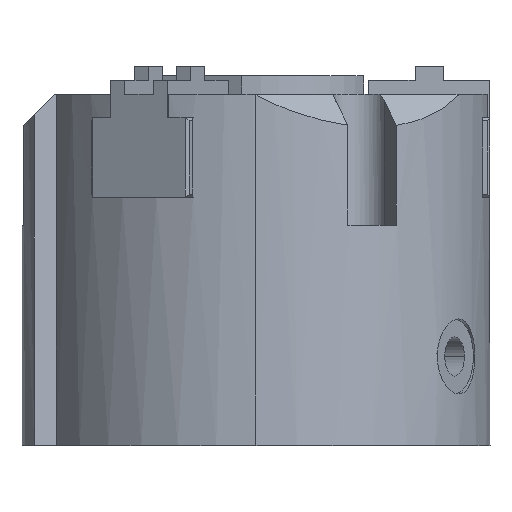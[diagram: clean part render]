
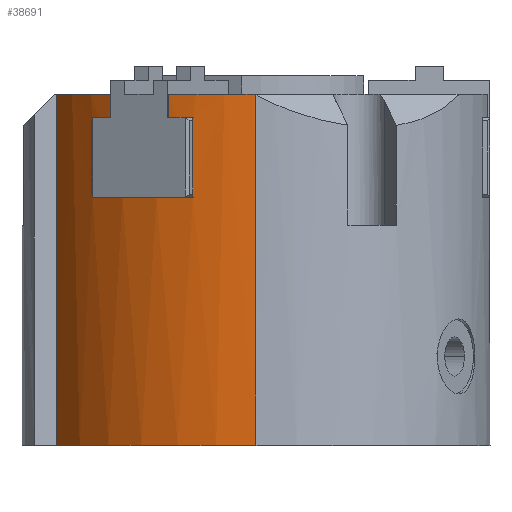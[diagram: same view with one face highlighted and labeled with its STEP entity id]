
A CAD part, top view. The second image highlights one B-rep face of the part: STEP entity #38691.
In plain terms, the highlighted cylindrical face has radius 25 mm (diameter 50 mm), a partial arc.
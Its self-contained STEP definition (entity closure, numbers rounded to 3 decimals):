
#1980 = DIRECTION ( 'NONE',  ( 0., -1., 0. ) ) ;
#2095 = CIRCLE ( 'NONE', #6055, 25. ) ;
#5515 = CIRCLE ( 'NONE', #51671, 25. ) ;
#6055 = AXIS2_PLACEMENT_3D ( 'NONE', #17786, #56748, #23388 ) ;
#6248 = CARTESIAN_POINT ( 'NONE',  ( 0., 35., 0. ) ) ;
#6533 = CARTESIAN_POINT ( 'NONE',  ( 0., 37.349, 25. ) ) ;
#6762 = CARTESIAN_POINT ( 'NONE',  ( -15.408, 37.5, 19.687 ) ) ;
#6874 = CARTESIAN_POINT ( 'NONE',  ( -17.479, 26.5, 17.874 ) ) ;
#7660 = CARTESIAN_POINT ( 'NONE',  ( -0.099, 37.399, 25. ) ) ;
#7695 = AXIS2_PLACEMENT_3D ( 'NONE', #49201, #15818, #54781 ) ;
#8846 = CYLINDRICAL_SURFACE ( 'NONE', #70943, 25. ) ;
#10016 = ORIENTED_EDGE ( 'NONE', *, *, #27983, .T. ) ;
#10881 = VERTEX_POINT ( 'NONE', #67672 ) ;
#11842 = ORIENTED_EDGE ( 'NONE', *, *, #12044, .T. ) ;
#11872 = DIRECTION ( 'NONE',  ( 0., 0., -1. ) ) ;
#12044 = EDGE_CURVE ( 'NONE', #50950, #47123, #2095, .T. ) ;
#12362 = CIRCLE ( 'NONE', #24687, 25. ) ;
#12746 = VECTOR ( 'NONE', #1980, 1000. ) ;
#13096 = ORIENTED_EDGE ( 'NONE', *, *, #34216, .T. ) ;
#13287 = CARTESIAN_POINT ( 'NONE',  ( -0.199, 37.449, 24.999 ) ) ;
#13321 = CARTESIAN_POINT ( 'NONE',  ( -21.358, 37.5, 12.994 ) ) ;
#14295 = VERTEX_POINT ( 'NONE', #17221 ) ;
#14493 = EDGE_CURVE ( 'NONE', #14295, #27524, #63065, .T. ) ;
#15222 = DIRECTION ( 'NONE',  ( 0., -1., 0. ) ) ;
#15429 = CARTESIAN_POINT ( 'NONE',  ( 0., 37.5, 0. ) ) ;
#15818 = DIRECTION ( 'NONE',  ( 0., -1., 0. ) ) ;
#16280 = ORIENTED_EDGE ( 'NONE', *, *, #14493, .F. ) ;
#16405 = DIRECTION ( 'NONE',  ( 0., -1., 0. ) ) ;
#16887 = EDGE_CURVE ( 'NONE', #45806, #26149, #49960, .T. ) ;
#17221 = CARTESIAN_POINT ( 'NONE',  ( -9.346, 37.5, 23.187 ) ) ;
#17537 = CARTESIAN_POINT ( 'NONE',  ( -9.346, 37.5, 23.187 ) ) ;
#17589 = ORIENTED_EDGE ( 'NONE', *, *, #61526, .T. ) ;
#17786 = CARTESIAN_POINT ( 'NONE',  ( 0., 26.5, 0. ) ) ;
#18872 = EDGE_CURVE ( 'NONE', #14295, #10881, #30232, .T. ) ;
#18934 = DIRECTION ( 'NONE',  ( 0., -1., 0. ) ) ;
#19650 = CARTESIAN_POINT ( 'NONE',  ( 0., 35., 0. ) ) ;
#19940 = CARTESIAN_POINT ( 'NONE',  ( -15.408, 35., 19.687 ) ) ;
#20588 = LINE ( 'NONE', #52783, #48480 ) ;
#21029 = DIRECTION ( 'NONE',  ( 0., 0., -1. ) ) ;
#21170 = ORIENTED_EDGE ( 'NONE', *, *, #35580, .F. ) ;
#22057 = VECTOR ( 'NONE', #18934, 1000. ) ;
#22710 = CARTESIAN_POINT ( 'NONE',  ( -6.74, 26.5, 24.074 ) ) ;
#23388 = DIRECTION ( 'NONE',  ( 0., 0., -1. ) ) ;
#24687 = AXIS2_PLACEMENT_3D ( 'NONE', #6248, #45257, #11872 ) ;
#25245 = DIRECTION ( 'NONE',  ( 0., 0., -1. ) ) ;
#25329 = EDGE_CURVE ( 'NONE', #58222, #27524, #70037, .T. ) ;
#26104 = VERTEX_POINT ( 'NONE', #19940 ) ;
#26149 = VERTEX_POINT ( 'NONE', #47709 ) ;
#27524 = VERTEX_POINT ( 'NONE', #59743 ) ;
#27983 = EDGE_CURVE ( 'NONE', #55328, #45806, #44970, .T. ) ;
#28737 = DIRECTION ( 'NONE',  ( 0., -1., 0. ) ) ;
#28744 = CARTESIAN_POINT ( 'NONE',  ( 0., 0., 0. ) ) ;
#28797 = ORIENTED_EDGE ( 'NONE', *, *, #65265, .T. ) ;
#29434 = AXIS2_PLACEMENT_3D ( 'NONE', #15429, #54378, #21029 ) ;
#30232 = LINE ( 'NONE', #17537, #43312 ) ;
#33278 = ORIENTED_EDGE ( 'NONE', *, *, #25329, .T. ) ;
#34216 = EDGE_CURVE ( 'NONE', #26149, #55666, #5515, .T. ) ;
#34320 = DIRECTION ( 'NONE',  ( 0., 0., -1. ) ) ;
#35580 = EDGE_CURVE ( 'NONE', #58222, #55666, #47325, .T. ) ;
#36100 = CARTESIAN_POINT ( 'NONE',  ( -15.408, 37.5, 19.687 ) ) ;
#36138 = VECTOR ( 'NONE', #41691, 1000. ) ;
#38691 = ADVANCED_FACE ( 'NONE', ( #68194 ), #8846, .T. ) ;
#39109 = EDGE_CURVE ( 'NONE', #10881, #69212, #12362, .T. ) ;
#39521 = CARTESIAN_POINT ( 'NONE',  ( 0., 0., 25. ) ) ;
#39878 = ORIENTED_EDGE ( 'NONE', *, *, #18872, .T. ) ;
#40939 = CARTESIAN_POINT ( 'NONE',  ( -6.74, 37.5, 24.074 ) ) ;
#41691 = DIRECTION ( 'NONE',  ( 0., 1., 0. ) ) ;
#41791 = ORIENTED_EDGE ( 'NONE', *, *, #39109, .T. ) ;
#42134 = AXIS2_PLACEMENT_3D ( 'NONE', #19650, #58601, #25245 ) ;
#42573 = CIRCLE ( 'NONE', #42134, 25. ) ;
#43312 = VECTOR ( 'NONE', #28737, 1000. ) ;
#44352 = CARTESIAN_POINT ( 'NONE',  ( -6.74, 35., 24.074 ) ) ;
#44970 = CIRCLE ( 'NONE', #7695, 25. ) ;
#45257 = DIRECTION ( 'NONE',  ( 0., 1., 0. ) ) ;
#45806 = VERTEX_POINT ( 'NONE', #62431 ) ;
#46672 = CARTESIAN_POINT ( 'NONE',  ( 0., 37.349, 25. ) ) ;
#46798 = VERTEX_POINT ( 'NONE', #47659 ) ;
#47123 = VERTEX_POINT ( 'NONE', #6874 ) ;
#47325 = LINE ( 'NONE', #54181, #58640 ) ;
#47520 = ORIENTED_EDGE ( 'NONE', *, *, #53579, .T. ) ;
#47659 = CARTESIAN_POINT ( 'NONE',  ( -17.479, 35., 17.874 ) ) ;
#47709 = CARTESIAN_POINT ( 'NONE',  ( -21.358, 0., 12.994 ) ) ;
#48480 = VECTOR ( 'NONE', #58383, 1000. ) ;
#49198 = EDGE_LOOP ( 'NONE', ( #21170, #33278, #16280, #39878, #41791, #54466, #11842, #17589, #47520, #28797, #10016, #55936, #13096 ) ) ;
#49201 = CARTESIAN_POINT ( 'NONE',  ( 0., 37.5, 0. ) ) ;
#49960 = LINE ( 'NONE', #13321, #22057 ) ;
#50950 = VERTEX_POINT ( 'NONE', #22710 ) ;
#51671 = AXIS2_PLACEMENT_3D ( 'NONE', #28744, #67773, #34320 ) ;
#52256 = CARTESIAN_POINT ( 'NONE',  ( -0.298, 37.5, 24.998 ) ) ;
#52783 = CARTESIAN_POINT ( 'NONE',  ( -17.479, 37.5, 17.874 ) ) ;
#53579 = EDGE_CURVE ( 'NONE', #46798, #26104, #42573, .T. ) ;
#54181 = CARTESIAN_POINT ( 'NONE',  ( 0., 37.5, 25. ) ) ;
#54378 = DIRECTION ( 'NONE',  ( 0., 1., 0. ) ) ;
#54466 = ORIENTED_EDGE ( 'NONE', *, *, #60970, .T. ) ;
#54781 = DIRECTION ( 'NONE',  ( 0., 0., -1. ) ) ;
#55328 = VERTEX_POINT ( 'NONE', #6762 ) ;
#55349 = CARTESIAN_POINT ( 'NONE',  ( 0., 37.5, 0. ) ) ;
#55666 = VERTEX_POINT ( 'NONE', #39521 ) ;
#55936 = ORIENTED_EDGE ( 'NONE', *, *, #16887, .T. ) ;
#56748 = DIRECTION ( 'NONE',  ( 0., -1., 0. ) ) ;
#58222 = VERTEX_POINT ( 'NONE', #6533 ) ;
#58383 = DIRECTION ( 'NONE',  ( 0., 1., 0. ) ) ;
#58601 = DIRECTION ( 'NONE',  ( 0., 1., 0. ) ) ;
#58640 = VECTOR ( 'NONE', #15222, 1000. ) ;
#59743 = CARTESIAN_POINT ( 'NONE',  ( -0.298, 37.5, 24.998 ) ) ;
#60970 = EDGE_CURVE ( 'NONE', #69212, #50950, #70333, .T. ) ;
#61526 = EDGE_CURVE ( 'NONE', #47123, #46798, #20588, .T. ) ;
#62316 = LINE ( 'NONE', #36100, #36138 ) ;
#62431 = CARTESIAN_POINT ( 'NONE',  ( -21.358, 37.5, 12.994 ) ) ;
#63065 = CIRCLE ( 'NONE', #29434, 25. ) ;
#65265 = EDGE_CURVE ( 'NONE', #26104, #55328, #62316, .T. ) ;
#67672 = CARTESIAN_POINT ( 'NONE',  ( -9.346, 35., 23.187 ) ) ;
#67773 = DIRECTION ( 'NONE',  ( 0., 1., 0. ) ) ;
#68194 = FACE_OUTER_BOUND ( 'NONE', #49198, .T. ) ;
#69212 = VERTEX_POINT ( 'NONE', #44352 ) ;
#70037 =( BOUNDED_CURVE ( )  B_SPLINE_CURVE ( 3, ( #46672, #7660, #13287, #52256 ),
 .UNSPECIFIED., .F., .F. ) 
 B_SPLINE_CURVE_WITH_KNOTS ( ( 4, 4 ),
 ( 0.524, 0.536 ),
 .UNSPECIFIED. ) 
 CURVE ( )  GEOMETRIC_REPRESENTATION_ITEM ( )  RATIONAL_B_SPLINE_CURVE ( ( 1., 1., 1., 1. ) ) 
 REPRESENTATION_ITEM ( '' )  );
#70333 = LINE ( 'NONE', #40939, #12746 ) ;
#70943 = AXIS2_PLACEMENT_3D ( 'NONE', #55349, #16405, #72239 ) ;
#72239 = DIRECTION ( 'NONE',  ( 0., 0., -1. ) ) ;
